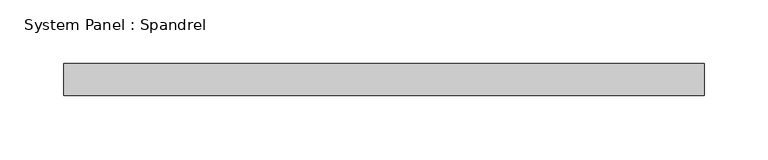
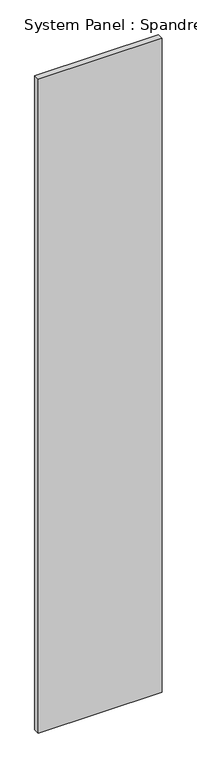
"""IFC4 building model written with IfcOpenShell, lengths in millimetres: plate geometry, System Panel : Spandrel."""

from ifc_helpers import new_model, si_unit, origin, origin_with_axes, place, context, project, spatial, polyline, outline, extrude, source, transform, mapped, element, save


def system_panel_spandrel_2409d0f2(model_context):
    return source(origin(), model_context, "Body", "SweptSolid", [
        extrude(outline(polyline([(250.9999998, -25.0), (-250.9999998, -25.0), (-250.9999998, 0.0), (250.9999998, 0.0), (250.9999998, -25.0)])), origin_with_axes(), (0.0, 0.0, 1.0), 2800.0),
    ])


if __name__ == "__main__":
    model = new_model("IFC4")
    model_context = context("Model", 3, world=origin())
    ifc_project = project(units=[si_unit("LENGTHUNIT", "METRE", prefix="MILLI")], contexts=[model_context])
    site = spatial("IfcSite", under=ifc_project)
    building = spatial("IfcBuilding", under=site)
    placement = place(None, origin())
    system_panel_spandrel_shape = system_panel_spandrel_2409d0f2(model_context)
    element("IfcPlate", 1, ObjectType="System Panel : Spandrel", at=placement, inside=building, context=model_context, shape_type="MappedRepresentation", body=[
        mapped(system_panel_spandrel_shape, transform((0.0, 0.0, 0.0), x_axis=(1.0, 0.0, 0.0), y_axis=(0.0, 1.0, 0.0), z_axis=(0.0, 0.0, 1.0))),
    ])
    save(model, "model.ifc")
